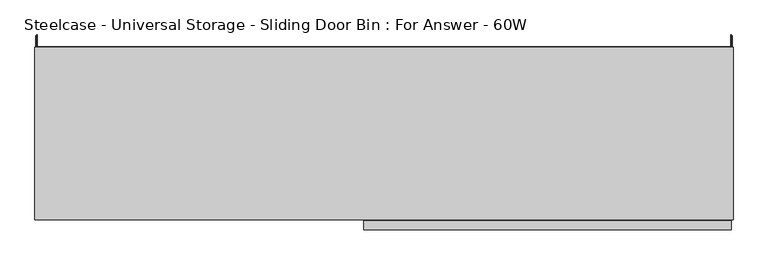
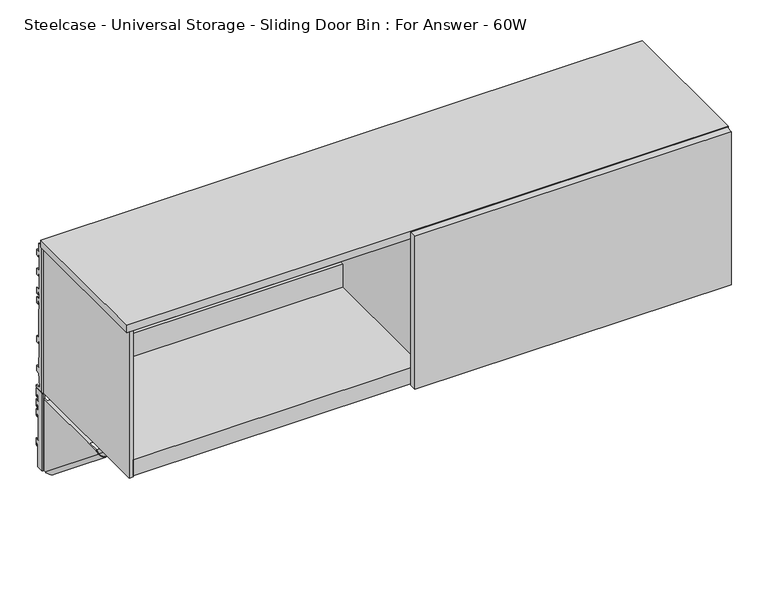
"""IFC4 building model written with IfcOpenShell, lengths in millimetres: furniture geometry, Steelcase - Universal Storage - Sliding Door Bin : For Answer - 60W."""

from ifc_helpers import new_model, si_unit, frame, origin, place, context, project, spatial, polyline, circle_curve, ellipse_curve, outline, extrude, faceted_brep, source, transform, mapped, element, save
from ifc_brep_helpers import plane_surface, cylinder_surface, revolved_surface, advanced_brep


def steelcase_universal_storage_sliding_door_bin_for_answer_60w_f952b99d(model_context):
    return source(origin(), model_context, "Body", "SolidModel", [
        advanced_brep(
        [(4.0894, 24.9864881, 1265.2629), (4.0894, 1.1327479, 1265.2629), (4.0894, 1.1203386, 1058.2783), (4.0894, 17.3410881, 1058.2783), (4.0894, 17.3410881, 1118.4254822), (4.0894, 21.4050888, 1118.4254822), (4.0894, 21.4050888, 1112.0755064), (4.0894, 24.9864881, 1112.0755064), (4.0894, 24.9864881, 1130.3381271), (4.0894, 14.7756879, 1130.3381271), (4.0894, 14.7756879, 1196.9115345), (4.0894, 18.8396885, 1196.9115345), (4.0894, 18.8396885, 1190.561486), (4.0894, 24.9864881, 1190.561486), (4.0894, 24.9864881, 1208.8241068), (4.0894, 14.7756879, 1208.8241068), (4.0894, 14.7756879, 1223.0735277), (4.0894, 18.8396885, 1223.0735277), (4.0894, 18.8396885, 1216.7234793), (4.0894, 24.9864881, 1216.7234793), (4.0894, 24.9864881, 1234.9861), (4.0894, 14.7756879, 1234.9861), (4.0894, 14.7756879, 1249.2355209), (4.0894, 18.8396885, 1249.2355209), (4.0894, 18.8396885, 1242.8854725), (4.0894, 24.9864881, 1242.8854725), (2.1844, 24.9864881, 1265.2629), (2.1844, 24.9864881, 1242.8854725), (2.1844, 18.8396885, 1242.8854725), (2.1844, 18.8396885, 1249.2355209), (2.1844, 14.7756879, 1249.2355209), (2.1844, 14.7756879, 1234.9861), (2.1844, 24.9864881, 1234.9861), (2.1844, 24.9864881, 1216.7234793), (2.1844, 18.8396885, 1216.7234793), (2.1844, 18.8396885, 1223.0735277), (2.1844, 14.7756879, 1223.0735277), (2.1844, 14.7756879, 1208.8241068), (2.1844, 24.9864881, 1208.8241068), (2.1844, 24.9864881, 1190.561486), (2.1844, 18.8396885, 1190.561486), (2.1844, 18.8396885, 1196.9115345), (2.1844, 14.7756879, 1196.9115345), (2.1844, 14.7756879, 1130.3381271), (2.1844, 24.9864881, 1130.3381271), (2.1844, 24.9864881, 1112.0755064), (2.1844, 21.4050888, 1112.0755064), (2.1844, 21.4050888, 1118.4254822), (2.1844, 17.3410881, 1118.4254822), (2.1844, 17.3410881, 1058.2783), (2.1844, -0.7757522, 1058.2783), (2.1844, -0.7757522, 1265.2629), (4.4891598, -3.080512, 1265.2629), (8.1026, -3.080512, 1265.2629), (8.1026, -1.7838863, 1265.2629), (7.4942256, -1.175512, 1265.2629), (6.3852506, -1.175512, 1265.2629), (6.3852506, -1.175512, 1058.2783), (7.4942256, -1.175512, 1058.2783), (8.1026, -1.7838863, 1058.2783), (8.1026, -3.080512, 1058.2783), (4.4891598, -3.080512, 1058.2783)],
        [
            (0, 1),
            (1, 2),
            (2, 3),
            (3, 4),
            (4, 5),
            (5, 6),
            (6, 7),
            (7, 8),
            (8, 9),
            (9, 10),
            (10, 11),
            (11, 12),
            (12, 13),
            (13, 14),
            (14, 15),
            (15, 16),
            (16, 17),
            (17, 18),
            (18, 19),
            (19, 20),
            (20, 21),
            (21, 22),
            (22, 23),
            (23, 24),
            (24, 25),
            (25, 0),
            (26, 27),
            (27, 28),
            (28, 29),
            (29, 30),
            (30, 31),
            (31, 32),
            (32, 33),
            (33, 34),
            (34, 35),
            (35, 36),
            (36, 37),
            (37, 38),
            (38, 39),
            (39, 40),
            (40, 41),
            (41, 42),
            (42, 43),
            (43, 44),
            (44, 45),
            (45, 46),
            (46, 47),
            (47, 48),
            (48, 49),
            (49, 50),
            (50, 51),
            (51, 26),
            (0, 26),
            (51, 52, circle_curve(frame((4.4891598, -0.7757522, 1265.2629), z_axis=(0.0, 0.0, 1.0), x_axis=(1.0, 0.0, 0.0)), 2.3047598)),
            (52, 53),
            (53, 54),
            (54, 55, circle_curve(frame((7.4942256, -1.7838863, 1265.2629), z_axis=(0.0, 0.0, 1.0), x_axis=(1.0, 0.0, 0.0)), 0.6083744)),
            (55, 56),
            (56, 1, circle_curve(frame((6.3852506, 1.1203386, 1265.2629), z_axis=(0.0, 0.0, -1.0), x_axis=(1.0, 0.0, 0.0)), 2.2958506)),
            (2, 57, circle_curve(frame((6.3852506, 1.1203386, 1058.2783), z_axis=(0.0, 0.0, 1.0), x_axis=(1.0, 0.0, 0.0)), 2.2958506)),
            (57, 58),
            (58, 59, circle_curve(frame((7.4942256, -1.7838863, 1058.2783), z_axis=(0.0, 0.0, -1.0), x_axis=(1.0, 0.0, 0.0)), 0.6083744)),
            (59, 60),
            (60, 61),
            (61, 50, circle_curve(frame((4.4891598, -0.7757522, 1058.2783), z_axis=(0.0, 0.0, -1.0), x_axis=(1.0, 0.0, 0.0)), 2.3047598)),
            (49, 3),
            (48, 4),
            (47, 5),
            (46, 6),
            (45, 7),
            (44, 8),
            (43, 9),
            (42, 10),
            (41, 11),
            (40, 12),
            (39, 13),
            (38, 14),
            (37, 15),
            (36, 16),
            (35, 17),
            (34, 18),
            (33, 19),
            (32, 20),
            (31, 21),
            (30, 22),
            (29, 23),
            (28, 24),
            (27, 25),
            (61, 52),
            (60, 53),
            (59, 54),
            (58, 55),
            (57, 56),
        ],
        [
            plane_surface(frame((4.0894, 1.241405, 1265.2629), z_axis=(1.0, 0.0, 0.0), x_axis=(0.0, -1.0, 0.0))),
            plane_surface(frame((2.1844, 1.241405, 1265.2629), z_axis=(-1.0, 0.0, 0.0), x_axis=(0.0, 1.0, 0.0))),
            plane_surface(frame((4.0894, 24.9864881, 1265.2629), z_axis=(0.0, 0.0, 1.0), x_axis=(-1.0, 0.0, 0.0))),
            plane_surface(frame((4.0894, 1.1327479, 1058.2783), z_axis=(0.0, 0.0, -1.0), x_axis=(-1.0, 0.0, 0.0))),
            plane_surface(frame((4.0894, 17.3410881, 1058.2783), z_axis=(0.0, 1.0, 0.0), x_axis=(-1.0, 0.0, 0.0))),
            plane_surface(frame((4.0894, 17.3410881, 1118.4254822), z_axis=(0.0, 0.0, -1.0), x_axis=(-1.0, 0.0, 0.0))),
            plane_surface(frame((4.0894, 21.4050888, 1118.4254822), z_axis=(0.0, -1.0, 0.0), x_axis=(-1.0, 0.0, 0.0))),
            plane_surface(frame((4.0894, 21.4050888, 1112.0755064), z_axis=(0.0, 0.0, -1.0), x_axis=(-1.0, 0.0, 0.0))),
            plane_surface(frame((4.0894, 24.9864881, 1112.0755064), z_axis=(0.0, 1.0, 0.0), x_axis=(-1.0, 0.0, 0.0))),
            plane_surface(frame((4.0894, 24.9864881, 1130.3381271), z_axis=(0.0, 0.0, 1.0), x_axis=(-1.0, 0.0, 0.0))),
            plane_surface(frame((4.0894, 14.7756879, 1130.3381271), z_axis=(0.0, 1.0, 0.0), x_axis=(-1.0, 0.0, 0.0))),
            plane_surface(frame((4.0894, 14.7756879, 1196.9115345), z_axis=(0.0, 0.0, -1.0), x_axis=(-1.0, 0.0, 0.0))),
            plane_surface(frame((4.0894, 18.8396885, 1196.9115345), z_axis=(0.0, -1.0, 0.0), x_axis=(-1.0, 0.0, 0.0))),
            plane_surface(frame((4.0894, 18.8396885, 1190.561486), z_axis=(0.0, 0.0, -1.0), x_axis=(-1.0, 0.0, 0.0))),
            plane_surface(frame((4.0894, 24.9864881, 1190.561486), z_axis=(0.0, 1.0, 0.0), x_axis=(-1.0, 0.0, 0.0))),
            plane_surface(frame((4.0894, 24.9864881, 1208.8241068), z_axis=(0.0, 0.0, 1.0), x_axis=(-1.0, 0.0, 0.0))),
            plane_surface(frame((4.0894, 14.7756879, 1208.8241068), z_axis=(0.0, 1.0, 0.0), x_axis=(-1.0, 0.0, 0.0))),
            plane_surface(frame((4.0894, 14.7756879, 1223.0735277), z_axis=(0.0, 0.0, -1.0), x_axis=(-1.0, 0.0, 0.0))),
            plane_surface(frame((4.0894, 18.8396885, 1223.0735277), z_axis=(0.0, -1.0, 0.0), x_axis=(-1.0, 0.0, 0.0))),
            plane_surface(frame((4.0894, 18.8396885, 1216.7234793), z_axis=(0.0, 0.0, -1.0), x_axis=(-1.0, 0.0, 0.0))),
            plane_surface(frame((4.0894, 24.9864881, 1216.7234793), z_axis=(0.0, 1.0, 0.0), x_axis=(-1.0, 0.0, 0.0))),
            plane_surface(frame((4.0894, 24.9864881, 1234.9861), z_axis=(0.0, 0.0, 1.0), x_axis=(-1.0, 0.0, 0.0))),
            plane_surface(frame((4.0894, 14.7756879, 1234.9861), z_axis=(0.0, 1.0, 0.0), x_axis=(-1.0, 0.0, 0.0))),
            plane_surface(frame((4.0894, 14.7756879, 1249.2355209), z_axis=(0.0, 0.0, -1.0), x_axis=(-1.0, 0.0, 0.0))),
            plane_surface(frame((4.0894, 18.8396885, 1249.2355209), z_axis=(0.0, -1.0, 0.0), x_axis=(-1.0, 0.0, 0.0))),
            plane_surface(frame((4.0894, 18.8396885, 1242.8854725), z_axis=(0.0, 0.0, -1.0), x_axis=(-1.0, 0.0, 0.0))),
            plane_surface(frame((4.0894, 24.9864881, 1242.8854725), z_axis=(0.0, 1.0, 0.0), x_axis=(-1.0, 0.0, 0.0))),
            cylinder_surface(frame((4.4891598, -0.7757522, 1058.2783), z_axis=(0.0, 0.0, 1.0), x_axis=(1.0, 0.0, 0.0)), 2.3047598),
            plane_surface(frame((4.4891598, -3.080512, 1265.2629), z_axis=(0.0, -1.0, 0.0), x_axis=(0.0, 0.0, -1.0))),
            plane_surface(frame((8.1026, -3.080512, 1265.2629), z_axis=(1.0, 0.0, 0.0), x_axis=(0.0, 0.0, -1.0))),
            cylinder_surface(frame((7.4942256, -1.7838863, 1058.2783), z_axis=(0.0, 0.0, 1.0), x_axis=(1.0, 0.0, 0.0)), 0.6083744),
            plane_surface(frame((7.4942256, -1.175512, 1265.2629), z_axis=(0.0, 1.0, 0.0), x_axis=(0.0, 0.0, -1.0))),
            revolved_surface(polyline([(8.6811012, 1.1203386, 1058.2783), (8.6811012, 1.1203386, 1265.2629)]), (6.3852506, 1.1203386, 1058.2783), (0.0, 0.0, -1.0)),
        ],
        [
            (0, [[1, 2, 3, 4, 5, 6, 7, 8, 9, 10, 11, 12, 13, 14, 15, 16, 17, 18, 19, 20, 21, 22, 23, 24, 25, 26]]),
            (1, [[27, 28, 29, 30, 31, 32, 33, 34, 35, 36, 37, 38, 39, 40, 41, 42, 43, 44, 45, 46, 47, 48, 49, 50, 51, 52]]),
            (2, [[-1, 53, -52, 54, 55, 56, 57, 58, 59]]),
            (3, [[-3, 60, 61, 62, 63, 64, 65, -50, 66]]),
            (4, [[-4, -66, -49, 67]]),
            (5, [[-5, -67, -48, 68]]),
            (6, [[-6, -68, -47, 69]]),
            (7, [[-7, -69, -46, 70]]),
            (8, [[-8, -70, -45, 71]]),
            (9, [[-9, -71, -44, 72]]),
            (10, [[-10, -72, -43, 73]]),
            (11, [[-11, -73, -42, 74]]),
            (12, [[-12, -74, -41, 75]]),
            (13, [[-13, -75, -40, 76]]),
            (14, [[-14, -76, -39, 77]]),
            (15, [[-15, -77, -38, 78]]),
            (16, [[-16, -78, -37, 79]]),
            (17, [[-17, -79, -36, 80]]),
            (18, [[-18, -80, -35, 81]]),
            (19, [[-19, -81, -34, 82]]),
            (20, [[-20, -82, -33, 83]]),
            (21, [[-21, -83, -32, 84]]),
            (22, [[-22, -84, -31, 85]]),
            (23, [[-23, -85, -30, 86]]),
            (24, [[-24, -86, -29, 87]]),
            (25, [[-25, -87, -28, 88]]),
            (26, [[-26, -88, -27, -53]]),
            (27, [[-54, -51, -65, 89]]),
            (28, [[-55, -89, -64, 90]]),
            (29, [[-56, -90, -63, 91]]),
            (30, [[-57, -91, -62, 92]]),
            (31, [[-58, -92, -61, 93]]),
            (32, [[-59, -93, -60, -2]]),
        ],
    ),
        advanced_brep(
        [(1519.9106, 24.9864881, 1265.2629), (1519.9106, 24.9864881, 1242.8854725), (1519.9106, 18.8396885, 1242.8854725), (1519.9106, 18.8396885, 1249.2355209), (1519.9106, 14.7756879, 1249.2355209), (1519.9106, 14.7756879, 1234.9861), (1519.9106, 24.9864881, 1234.9861), (1519.9106, 24.9864881, 1216.7234793), (1519.9106, 18.8396885, 1216.7234793), (1519.9106, 18.8396885, 1223.0735277), (1519.9106, 14.7756879, 1223.0735277), (1519.9106, 14.7756879, 1208.8241068), (1519.9106, 24.9864881, 1208.8241068), (1519.9106, 24.9864881, 1190.561486), (1519.9106, 18.8396885, 1190.561486), (1519.9106, 18.8396885, 1196.9115345), (1519.9106, 14.7756879, 1196.9115345), (1519.9106, 14.7756879, 1130.3381271), (1519.9106, 24.9864881, 1130.3381271), (1519.9106, 24.9864881, 1112.0755064), (1519.9106, 21.4050888, 1112.0755064), (1519.9106, 21.4050888, 1118.4254822), (1519.9106, 17.3410881, 1118.4254822), (1519.9106, 17.3410881, 1058.2783), (1519.9106, 1.1327479, 1058.2783), (1519.9106, 1.1203386, 1265.2629), (1521.8156, -0.7757522, 1265.2629), (1521.8156, -0.7757522, 1058.2783), (1521.8156, 17.3410881, 1058.2783), (1521.8156, 17.3410881, 1118.4254822), (1521.8156, 21.4050888, 1118.4254822), (1521.8156, 21.4050888, 1112.0755064), (1521.8156, 24.9864881, 1112.0755064), (1521.8156, 24.9864881, 1130.3381271), (1521.8156, 14.7756879, 1130.3381271), (1521.8156, 14.7756879, 1196.9115345), (1521.8156, 18.8396885, 1196.9115345), (1521.8156, 18.8396885, 1190.561486), (1521.8156, 24.9864881, 1190.561486), (1521.8156, 24.9864881, 1208.8241068), (1521.8156, 14.7756879, 1208.8241068), (1521.8156, 14.7756879, 1223.0735277), (1521.8156, 18.8396885, 1223.0735277), (1521.8156, 18.8396885, 1216.7234793), (1521.8156, 24.9864881, 1216.7234793), (1521.8156, 24.9864881, 1234.9861), (1521.8156, 14.7756879, 1234.9861), (1521.8156, 14.7756879, 1249.2355209), (1521.8156, 18.8396885, 1249.2355209), (1521.8156, 18.8396885, 1242.8854725), (1521.8156, 24.9864881, 1242.8854725), (1521.8156, 24.9864881, 1265.2629), (1519.5108402, -3.080512, 1058.2783), (1516.1006, -3.080512, 1058.2783), (1516.1006, -1.7838863, 1058.2783), (1516.7089744, -1.175512, 1058.2783), (1517.6147494, -1.175512, 1058.2783), (1517.6147494, -1.175512, 1265.2629), (1516.7089744, -1.175512, 1265.2629), (1516.1006, -1.7838863, 1265.2629), (1516.1006, -3.080512, 1265.2629), (1519.5108402, -3.080512, 1265.2629)],
        [
            (0, 1),
            (1, 2),
            (2, 3),
            (3, 4),
            (4, 5),
            (5, 6),
            (6, 7),
            (7, 8),
            (8, 9),
            (9, 10),
            (10, 11),
            (11, 12),
            (12, 13),
            (13, 14),
            (14, 15),
            (15, 16),
            (16, 17),
            (17, 18),
            (18, 19),
            (19, 20),
            (20, 21),
            (21, 22),
            (22, 23),
            (23, 24),
            (24, 25),
            (25, 0),
            (26, 27),
            (27, 28),
            (28, 29),
            (29, 30),
            (30, 31),
            (31, 32),
            (32, 33),
            (33, 34),
            (34, 35),
            (35, 36),
            (36, 37),
            (37, 38),
            (38, 39),
            (39, 40),
            (40, 41),
            (41, 42),
            (42, 43),
            (43, 44),
            (44, 45),
            (45, 46),
            (46, 47),
            (47, 48),
            (48, 49),
            (49, 50),
            (50, 51),
            (51, 26),
            (0, 51),
            (50, 1),
            (49, 2),
            (48, 3),
            (47, 4),
            (46, 5),
            (45, 6),
            (44, 7),
            (43, 8),
            (42, 9),
            (41, 10),
            (40, 11),
            (39, 12),
            (38, 13),
            (37, 14),
            (36, 15),
            (35, 16),
            (34, 17),
            (33, 18),
            (32, 19),
            (31, 20),
            (30, 21),
            (29, 22),
            (28, 23),
            (27, 52, circle_curve(frame((1519.5108402, -0.7757522, 1058.2783), z_axis=(0.0, 0.0, -1.0), x_axis=(0.0, 1.0, 0.0)), 2.3047598)),
            (52, 53),
            (53, 54),
            (54, 55, circle_curve(frame((1516.7089744, -1.7838863, 1058.2783), z_axis=(0.0, 0.0, -1.0), x_axis=(0.0, 1.0, 0.0)), 0.6083744)),
            (55, 56),
            (56, 24, circle_curve(frame((1517.6147494, 1.1203386, 1058.2783), z_axis=(0.0, 0.0, 1.0), x_axis=(0.0, 1.0, 0.0)), 2.2958506)),
            (25, 57, circle_curve(frame((1517.6147494, 1.1203386, 1265.2629), z_axis=(0.0, 0.0, -1.0), x_axis=(0.0, 1.0, 0.0)), 2.2958506)),
            (57, 58),
            (58, 59, circle_curve(frame((1516.7089744, -1.7838863, 1265.2629), z_axis=(0.0, 0.0, 1.0), x_axis=(0.0, 1.0, 0.0)), 0.6083744)),
            (59, 60),
            (60, 61),
            (61, 26, circle_curve(frame((1519.5108402, -0.7757522, 1265.2629), z_axis=(0.0, 0.0, 1.0), x_axis=(0.0, 1.0, 0.0)), 2.3047598)),
            (56, 57),
            (55, 58),
            (54, 59),
            (53, 60),
            (52, 61),
        ],
        [
            plane_surface(frame((1519.9106, 24.9864881, 1265.2629), z_axis=(-1.0, 0.0, 0.0), x_axis=(0.0, 0.0, -1.0))),
            plane_surface(frame((1521.8156, 24.9864881, 1265.2629), z_axis=(1.0, 0.0, 0.0), x_axis=(0.0, 0.0, 1.0))),
            plane_surface(frame((1519.9106, 24.9864881, 1265.2629), z_axis=(0.0, 1.0, 0.0), x_axis=(1.0, 0.0, 0.0))),
            plane_surface(frame((1519.9106, 24.9864881, 1242.8854725), z_axis=(0.0, 0.0, -1.0), x_axis=(1.0, 0.0, 0.0))),
            plane_surface(frame((1519.9106, 18.8396885, 1242.8854725), z_axis=(0.0, -1.0, 0.0), x_axis=(1.0, 0.0, 0.0))),
            plane_surface(frame((1519.9106, 18.8396885, 1249.2355209), z_axis=(0.0, 0.0, -1.0), x_axis=(1.0, 0.0, 0.0))),
            plane_surface(frame((1519.9106, 14.7756879, 1249.2355209), z_axis=(0.0, 1.0, 0.0), x_axis=(1.0, 0.0, 0.0))),
            plane_surface(frame((1519.9106, 14.7756879, 1234.9861), z_axis=(0.0, 0.0, 1.0), x_axis=(1.0, 0.0, 0.0))),
            plane_surface(frame((1519.9106, 24.9864881, 1234.9861), z_axis=(0.0, 1.0, 0.0), x_axis=(1.0, 0.0, 0.0))),
            plane_surface(frame((1519.9106, 24.9864881, 1216.7234793), z_axis=(0.0, 0.0, -1.0), x_axis=(1.0, 0.0, 0.0))),
            plane_surface(frame((1519.9106, 18.8396885, 1216.7234793), z_axis=(0.0, -1.0, 0.0), x_axis=(1.0, 0.0, 0.0))),
            plane_surface(frame((1519.9106, 18.8396885, 1223.0735277), z_axis=(0.0, 0.0, -1.0), x_axis=(1.0, 0.0, 0.0))),
            plane_surface(frame((1519.9106, 14.7756879, 1223.0735277), z_axis=(0.0, 1.0, 0.0), x_axis=(1.0, 0.0, 0.0))),
            plane_surface(frame((1519.9106, 14.7756879, 1208.8241068), z_axis=(0.0, 0.0, 1.0), x_axis=(1.0, 0.0, 0.0))),
            plane_surface(frame((1519.9106, 24.9864881, 1208.8241068), z_axis=(0.0, 1.0, 0.0), x_axis=(1.0, 0.0, 0.0))),
            plane_surface(frame((1519.9106, 24.9864881, 1190.561486), z_axis=(0.0, 0.0, -1.0), x_axis=(1.0, 0.0, 0.0))),
            plane_surface(frame((1519.9106, 18.8396885, 1190.561486), z_axis=(0.0, -1.0, 0.0), x_axis=(1.0, 0.0, 0.0))),
            plane_surface(frame((1519.9106, 18.8396885, 1196.9115345), z_axis=(0.0, 0.0, -1.0), x_axis=(1.0, 0.0, 0.0))),
            plane_surface(frame((1519.9106, 14.7756879, 1196.9115345), z_axis=(0.0, 1.0, 0.0), x_axis=(1.0, 0.0, 0.0))),
            plane_surface(frame((1519.9106, 14.7756879, 1130.3381271), z_axis=(0.0, 0.0, 1.0), x_axis=(1.0, 0.0, 0.0))),
            plane_surface(frame((1519.9106, 24.9864881, 1130.3381271), z_axis=(0.0, 1.0, 0.0), x_axis=(1.0, 0.0, 0.0))),
            plane_surface(frame((1519.9106, 24.9864881, 1112.0755064), z_axis=(0.0, 0.0, -1.0), x_axis=(1.0, 0.0, 0.0))),
            plane_surface(frame((1519.9106, 21.4050888, 1112.0755064), z_axis=(0.0, -1.0, 0.0), x_axis=(1.0, 0.0, 0.0))),
            plane_surface(frame((1519.9106, 21.4050888, 1118.4254822), z_axis=(0.0, 0.0, -1.0), x_axis=(1.0, 0.0, 0.0))),
            plane_surface(frame((1519.9106, 17.3410881, 1118.4254822), z_axis=(0.0, 1.0, 0.0), x_axis=(1.0, 0.0, 0.0))),
            plane_surface(frame((1519.9106, 17.3410881, 1058.2783), z_axis=(0.0, 0.0, -1.0), x_axis=(1.0, 0.0, 0.0))),
            plane_surface(frame((1519.9106, 1.1327479, 1265.2629), z_axis=(0.0, 0.0, 1.0), x_axis=(1.0, 0.0, 0.0))),
            revolved_surface(polyline([(1517.6147494, 3.4161892, 1058.2783), (1517.6147494, 3.4161892, 1265.2629)]), (1517.6147494, 1.1203386, 1058.2783), (0.0, 0.0, -1.0)),
            plane_surface(frame((1517.6147494, -1.175512, 1265.2629), z_axis=(0.0, 1.0, 0.0), x_axis=(0.0, 0.0, -1.0))),
            cylinder_surface(frame((1516.7089744, -1.7838863, 1058.2783), z_axis=(0.0, 0.0, 1.0), x_axis=(0.0, 1.0, 0.0)), 0.6083744),
            plane_surface(frame((1516.1006, -1.7838863, 1265.2629), z_axis=(-1.0, 0.0, 0.0), x_axis=(0.0, 0.0, -1.0))),
            plane_surface(frame((1516.1006, -3.080512, 1265.2629), z_axis=(0.0, -1.0, 0.0), x_axis=(0.0, 0.0, -1.0))),
            cylinder_surface(frame((1519.5108402, -0.7757522, 1058.2783), z_axis=(0.0, 0.0, 1.0), x_axis=(0.0, 1.0, 0.0)), 2.3047598),
        ],
        [
            (0, [[1, 2, 3, 4, 5, 6, 7, 8, 9, 10, 11, 12, 13, 14, 15, 16, 17, 18, 19, 20, 21, 22, 23, 24, 25, 26]]),
            (1, [[27, 28, 29, 30, 31, 32, 33, 34, 35, 36, 37, 38, 39, 40, 41, 42, 43, 44, 45, 46, 47, 48, 49, 50, 51, 52]]),
            (2, [[-1, 53, -51, 54]]),
            (3, [[-2, -54, -50, 55]]),
            (4, [[-3, -55, -49, 56]]),
            (5, [[-4, -56, -48, 57]]),
            (6, [[-5, -57, -47, 58]]),
            (7, [[-6, -58, -46, 59]]),
            (8, [[-7, -59, -45, 60]]),
            (9, [[-8, -60, -44, 61]]),
            (10, [[-9, -61, -43, 62]]),
            (11, [[-10, -62, -42, 63]]),
            (12, [[-11, -63, -41, 64]]),
            (13, [[-12, -64, -40, 65]]),
            (14, [[-13, -65, -39, 66]]),
            (15, [[-14, -66, -38, 67]]),
            (16, [[-15, -67, -37, 68]]),
            (17, [[-16, -68, -36, 69]]),
            (18, [[-17, -69, -35, 70]]),
            (19, [[-18, -70, -34, 71]]),
            (20, [[-19, -71, -33, 72]]),
            (21, [[-20, -72, -32, 73]]),
            (22, [[-21, -73, -31, 74]]),
            (23, [[-22, -74, -30, 75]]),
            (24, [[-23, -75, -29, 76]]),
            (25, [[-24, -76, -28, 77, 78, 79, 80, 81, 82]]),
            (26, [[-26, 83, 84, 85, 86, 87, 88, -52, -53]]),
            (27, [[-83, -25, -82, 89]]),
            (28, [[-84, -89, -81, 90]]),
            (29, [[-85, -90, -80, 91]]),
            (30, [[-86, -91, -79, 92]]),
            (31, [[-87, -92, -78, 93]]),
            (32, [[-88, -93, -77, -27]]),
        ],
    ),
        advanced_brep(
        [(1494.9424, -230.0833372, 1251.1405), (1494.9424, 1.1327479, 1063.9053738), (1492.8342, 1.1327479, 1063.9053738), (1492.8342, -230.0833372, 1251.1405), (1492.8342, 1.1327479, 1058.2783), (1492.8342, -7.7654502, 1058.2783), (1492.8342, -240.6555763, 1246.8690381), (1516.1006, -7.7654502, 1058.2783), (1516.1006, -240.6555763, 1246.8690381), (1516.1006, 1.1327479, 1058.2783), (1516.1006, 1.1327479, 1063.9053738), (1516.1006, -3.080512, 1067.317205), (1516.1006, -3.080512, 1251.1405), (1516.1006, -230.0833372, 1251.1405), (1513.9924009, 1.1327479, 1063.9053738), (1513.9924009, -3.080512, 1067.317205), (1513.9924009, -7.7654502, 1058.2783), (1513.9924009, -240.6555763, 1246.8690381), (1513.9924009, -230.0833372, 1251.1405), (1513.9924009, -200.311512, 1251.1405), (1513.9924009, -200.311512, 1250.3023163), (1513.9924009, -14.0787123, 1250.3023163), (1513.9924009, -14.0787123, 1251.1405), (1513.9924009, -3.080512, 1251.1405), (1513.9924009, 1.1327479, 1058.2783), (1494.9424, -7.7654502, 1058.2783), (1494.9424, -240.6555763, 1246.8690381), (1494.9424, 1.1327479, 1058.2783), (1485.0617978, -200.311512, 1251.1405), (1485.0617978, -200.311512, 1269.5555016), (1484.2236, -200.311512, 1269.5555016), (1484.2236, -200.311512, 1250.3023163), (1484.2236, -82.5825138, 1269.5555016), (1485.0617978, -82.5825138, 1269.5555016), (1485.0617978, -82.5825138, 1251.1405), (1484.2236, -82.5825138, 1251.1405), (1484.2236, -14.0787123, 1251.1405), (1484.2236, -14.0787123, 1250.3023163)],
        [
            (0, 1),
            (1, 2),
            (2, 3),
            (3, 0),
            (2, 4),
            (4, 5),
            (5, 6),
            (6, 3),
            (5, 7, ellipse_curve(frame((1504.4674, -7.7654502, 1058.2783), z_axis=(0.0, 0.0, 1.0), x_axis=(0.0, -1.0, 0.0)), 18.4853359, 11.6332)),
            (7, 8),
            (8, 6, ellipse_curve(frame((1504.4674, -240.6555763, 1246.8690381), z_axis=(0.0, 0.374606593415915, -0.9271838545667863), x_axis=(0.0, -0.9271838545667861, -0.3746065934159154)), 13.3008659, 11.6332)),
            (7, 9),
            (9, 10),
            (10, 11),
            (11, 12),
            (12, 13),
            (13, 8),
            (10, 14),
            (14, 15),
            (15, 11),
            (16, 17),
            (17, 18),
            (18, 19),
            (19, 20),
            (20, 21),
            (21, 22),
            (22, 23),
            (23, 15),
            (14, 24),
            (24, 16),
            (16, 25, ellipse_curve(frame((1504.4674005, -7.7654502, 1058.2783), z_axis=(0.0, 0.0, -1.0), x_axis=(0.0, 1.0, 0.0)), 15.135374, 9.5250005)),
            (25, 26),
            (26, 17, ellipse_curve(frame((1504.4674005, -240.6555763, 1246.8690381), z_axis=(0.0, -0.374606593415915, 0.9271838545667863), x_axis=(0.0, 0.9271838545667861, 0.3746065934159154)), 10.8904475, 9.5250005)),
            (0, 26),
            (25, 27),
            (27, 1),
            (13, 18),
            (24, 9),
            (4, 27),
            (28, 29),
            (29, 30),
            (30, 31),
            (31, 20),
            (19, 28),
            (32, 33),
            (33, 34),
            (34, 35),
            (35, 32),
            (35, 36),
            (36, 37),
            (37, 31),
            (30, 32),
            (28, 34),
            (33, 29),
            (36, 22),
            (21, 37),
            (12, 23),
        ],
        [
            plane_surface(frame((1494.9424, -241.2702093, 1260.199452), z_axis=(0.0, 0.6293204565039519, 0.7771459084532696), x_axis=(0.0, 0.7771459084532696, -0.6293204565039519))),
            plane_surface(frame((1492.8342, -241.2702093, 1260.199452), z_axis=(-1.0, 0.0, 0.0), x_axis=(0.0, 0.7771459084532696, -0.6293204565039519))),
            cylinder_surface(frame((1504.4674, 5.728998, 1047.3507094), z_axis=(0.0, -0.7771459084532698, 0.6293204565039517), x_axis=(0.0, 0.6293204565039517, 0.7771459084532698)), 11.6332),
            plane_surface(frame((1516.1006, -247.5463438, 1252.4490726), z_axis=(1.0, 0.0, 0.0), x_axis=(0.0, 0.7771459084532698, -0.6293204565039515))),
            plane_surface(frame((1516.1006, -241.2702093, 1260.199452), z_axis=(0.0, 0.6293204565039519, 0.7771459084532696), x_axis=(0.0, 0.7771459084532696, -0.6293204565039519))),
            plane_surface(frame((1513.9924009, -241.2702093, 1260.199452), z_axis=(-1.0, 0.0, 0.0), x_axis=(0.0, 0.7771459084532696, -0.6293204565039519))),
            revolved_surface(polyline([(1504.4674005, 7.3699238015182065, 1058.2783000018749), (1504.4674005, -238.76446812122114, 1257.5940349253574)]), (1504.4674005, 5.728998, 1047.3507094), (0.0, 0.7771459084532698, -0.6293204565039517)),
            plane_surface(frame((1494.9424, -247.5463438, 1252.4490726), z_axis=(1.0, 0.0, 0.0), x_axis=(0.0, 0.7771459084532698, -0.6293204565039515))),
            plane_surface(frame((1524.0, -257.2236519, 1240.1751011), z_axis=(0.0, -0.374606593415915, 0.9271838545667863), x_axis=(-1.0, 0.0, 0.0))),
            plane_surface(frame((1524.0, 1.1327479, 1058.2783), z_axis=(0.0, 0.0, -1.0), x_axis=(-1.0, 0.0, 0.0))),
            plane_surface(frame((1524.0, 1.1327479, 1070.9783), z_axis=(0.0, 1.0, 0.0), x_axis=(-1.0, 0.0, 0.0))),
            plane_surface(frame((1484.2236, -200.311512, 1269.5555016), z_axis=(0.0, -1.0, 0.0), x_axis=(0.0, 0.0, -1.0))),
            plane_surface(frame((1484.2236, -82.5825138, 1269.5555016), z_axis=(0.0, 1.0, 0.0), x_axis=(0.0, 0.0, 1.0))),
            plane_surface(frame((1484.2236, -200.311512, 1269.5555016), z_axis=(-1.0, 0.0, 0.0), x_axis=(0.0, 1.0, 0.0))),
            plane_surface(frame((1485.0617978, -200.311512, 1251.1405), z_axis=(1.0, 0.0, 0.0), x_axis=(0.0, 1.0, 0.0))),
            plane_surface(frame((1485.0617978, -200.311512, 1269.5555016), z_axis=(0.0, 0.0, 1.0), x_axis=(0.0, 1.0, 0.0))),
            plane_surface(frame((1484.2236, -14.0787123, 1251.1405), z_axis=(0.0, 1.0, 0.0), x_axis=(0.0, 0.0, 1.0))),
            plane_surface(frame((1484.2236, -200.311512, 1250.3023163), z_axis=(0.0, 0.0, -1.0), x_axis=(0.0, 1.0, 0.0))),
            plane_surface(frame((1516.1006, -200.311512, 1251.1405), z_axis=(0.0, 0.0, 1.0), x_axis=(0.0, 1.0, 0.0))),
            plane_surface(frame((1516.1006, -3.080512, 1067.317205), z_axis=(0.0, 1.0, 0.0), x_axis=(-1.0, 0.0, 0.0))),
        ],
        [
            (0, [[1, 2, 3, 4]]),
            (1, [[-3, 5, 6, 7, 8]]),
            (2, [[-7, 9, 10, 11]]),
            (3, [[-10, 12, 13, 14, 15, 16, 17]]),
            (4, [[18, 19, 20, -14]]),
            (5, [[21, 22, 23, 24, 25, 26, 27, 28, -19, 29, 30]]),
            (6, [[-21, 31, 32, 33]]),
            (7, [[-1, 34, -32, 35, 36]]),
            (8, [[-4, -8, -11, -17, 37, -22, -33, -34]]),
            (9, [[38, -12, -9, -6, 39, -35, -31, -30]]),
            (10, [[-38, -29, -18, -13]]),
            (10, [[-39, -5, -2, -36]]),
            (11, [[40, 41, 42, 43, -24, 44]]),
            (12, [[45, 46, 47, 48]]),
            (13, [[-48, 49, 50, 51, -42, 52]]),
            (14, [[-40, 53, -46, 54]]),
            (15, [[-41, -54, -45, -52]]),
            (16, [[-50, 55, -26, 56]]),
            (17, [[-51, -56, -25, -43]]),
            (18, [[57, -27, -55, -49, -47, -53, -44, -23, -37, -16]]),
            (19, [[-15, -20, -28, -57]]),
        ],
    ),
        advanced_brep(
        [(8.1026, -3.080512, 1067.317205), (8.1026, -3.080512, 1251.1405), (8.1026, -14.0787123, 1251.1405), (8.1026, -14.0787123, 1250.3023163), (8.1026, -200.311512, 1250.3023163), (8.1026, -200.311512, 1251.1405), (8.1026, -230.0833372, 1251.1405), (8.1026, -240.6555763, 1246.8690381), (8.1026, -7.7654502, 1058.2783), (8.1026, 1.1327479, 1058.2783), (8.1026, 1.1327479, 1063.9053738), (5.9944, -3.080512, 1251.1405), (5.9944, -3.080512, 1067.317205), (5.9944, 1.1327479, 1063.9053738), (5.9944, 1.1327479, 1058.2783), (5.9944, -7.7654502, 1058.2783), (5.9944, -240.6555763, 1246.8690381), (5.9944, -230.0833372, 1251.1405), (39.5732022, -200.311512, 1251.1405), (39.5732022, -82.5825138, 1251.1405), (40.4114, -82.5825138, 1251.1405), (40.4114, -14.0787123, 1251.1405), (29.2608, -7.7654502, 1058.2783), (29.2608, -240.6555763, 1246.8690381), (29.2608, 1.1327479, 1058.2783), (29.2608, 1.1327479, 1063.9053738), (29.2608, -230.0833372, 1251.1405), (27.1526009, 1.1327479, 1063.9053738), (27.1526009, -230.0833372, 1251.1405), (27.1526009, 1.1327479, 1058.2783), (27.1526009, -7.7654502, 1058.2783), (27.1526009, -240.6555763, 1246.8690381), (40.4114, -200.311512, 1250.3023163), (40.4114, -200.311512, 1269.5555016), (39.5732022, -200.311512, 1269.5555016), (40.4114, -14.0787123, 1250.3023163), (40.4114, -82.5825138, 1269.5555016), (39.5732022, -82.5825138, 1269.5555016)],
        [
            (0, 1),
            (1, 2),
            (2, 3),
            (3, 4),
            (4, 5),
            (5, 6),
            (6, 7),
            (7, 8),
            (8, 9),
            (9, 10),
            (10, 0),
            (11, 12),
            (12, 13),
            (13, 14),
            (14, 15),
            (15, 16),
            (16, 17),
            (17, 11),
            (17, 6),
            (5, 18),
            (18, 19),
            (19, 20),
            (20, 21),
            (21, 2),
            (1, 11),
            (0, 12),
            (10, 13),
            (15, 22, ellipse_curve(frame((17.6276, -7.7654502, 1058.2783), z_axis=(0.0, 0.0, 1.0), x_axis=(0.0, -1.0, 0.0)), 18.4853359, 11.6332)),
            (22, 23),
            (23, 16, ellipse_curve(frame((17.6276, -240.6555763, 1246.8690381), z_axis=(0.0, 0.374606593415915, -0.9271838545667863), x_axis=(0.0, -0.9271838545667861, -0.3746065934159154)), 13.3008659, 11.6332)),
            (22, 24),
            (24, 25),
            (25, 26),
            (26, 23),
            (25, 27),
            (27, 28),
            (28, 26),
            (27, 29),
            (29, 30),
            (30, 31),
            (31, 28),
            (7, 31, ellipse_curve(frame((17.6276005, -240.6555763, 1246.8690381), z_axis=(0.0, -0.374606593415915, 0.9271838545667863), x_axis=(0.0, 0.9271838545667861, 0.3746065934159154)), 10.8904475, 9.5250005)),
            (30, 8, ellipse_curve(frame((17.6276005, -7.7654502, 1058.2783), z_axis=(0.0, 0.0, -1.0), x_axis=(0.0, 1.0, 0.0)), 15.135374, 9.5250005)),
            (14, 9),
            (29, 24),
            (4, 32),
            (32, 33),
            (33, 34),
            (34, 18),
            (21, 35),
            (35, 3),
            (35, 32),
            (20, 36),
            (36, 33),
            (19, 37),
            (37, 36),
            (37, 34),
        ],
        [
            plane_surface(frame((8.1026, -230.0833372, 1251.1405), z_axis=(1.0, 0.0, 0.0), x_axis=(0.0, -1.0, 0.0))),
            plane_surface(frame((5.9944, -230.0833372, 1251.1405), z_axis=(-1.0, 0.0, 0.0), x_axis=(0.0, 1.0, 0.0))),
            plane_surface(frame((8.1026, -3.080512, 1251.1405), z_axis=(0.0, 0.0, 1.0), x_axis=(-1.0, 0.0, 0.0))),
            plane_surface(frame((8.1026, -3.080512, 1067.317205), z_axis=(0.0, 1.0, 0.0), x_axis=(-1.0, 0.0, 0.0))),
            plane_surface(frame((8.1026, -241.2702093, 1260.199452), z_axis=(0.0, 0.6293204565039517, 0.7771459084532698), x_axis=(0.0, 0.7771459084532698, -0.6293204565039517))),
            cylinder_surface(frame((17.6276, 5.728998, 1047.3507094), z_axis=(0.0, -0.7771459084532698, 0.6293204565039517), x_axis=(1.0, 0.0, 0.0)), 11.6332),
            plane_surface(frame((29.2608, -247.5463438, 1252.4490726), z_axis=(1.0000000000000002, 0.0, 0.0), x_axis=(0.0, 0.7771459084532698, -0.6293204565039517))),
            plane_surface(frame((29.2608, -241.2702093, 1260.199452), z_axis=(0.0, 0.6293204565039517, 0.7771459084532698), x_axis=(0.0, 0.7771459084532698, -0.6293204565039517))),
            plane_surface(frame((27.1526009, -241.2702093, 1260.199452), z_axis=(-1.0000000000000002, 0.0, 0.0), x_axis=(0.0, 0.7771459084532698, -0.6293204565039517))),
            revolved_surface(polyline([(27.152601, 1.375646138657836, 1050.8759848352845), (27.152601, -244.75874578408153, 1250.1917197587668)]), (17.6276005, 5.728998, 1047.3507094), (0.0, 0.7771459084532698, -0.6293204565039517)),
            plane_surface(frame((1524.0, -257.2236519, 1240.1751011), z_axis=(0.0, -0.374606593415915, 0.9271838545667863), x_axis=(-1.0, 0.0, 0.0))),
            plane_surface(frame((1524.0, 1.1327479, 1058.2783), z_axis=(0.0, 0.0, -1.0), x_axis=(-1.0, 0.0, 0.0))),
            plane_surface(frame((1524.0, 1.1327479, 1070.9783), z_axis=(0.0, 1.0, 0.0), x_axis=(-1.0, 0.0, 0.0))),
            plane_surface(frame((10.5986151, -200.311512, 1251.1405), z_axis=(0.0, -1.0, 0.0), x_axis=(-1.0, 0.0, 0.0))),
            plane_surface(frame((10.5986151, -14.0787123, 1251.1405), z_axis=(0.0, 1.0, 0.0), x_axis=(1.0, 0.0, 0.0))),
            plane_surface(frame((8.1026, -200.311512, 1250.3023163), z_axis=(0.0, 0.0, -1.0), x_axis=(0.0, 1.0, 0.0))),
            plane_surface(frame((40.4114, -200.311512, 1250.3023163), z_axis=(1.0, 0.0, 0.0), x_axis=(0.0, 1.0, 0.0))),
            plane_surface(frame((38.1509305, -82.5825138, 1269.5555016), z_axis=(0.0, 1.0, 0.0), x_axis=(1.0, 0.0, 0.0))),
            plane_surface(frame((40.4114, -200.311512, 1269.5555016), z_axis=(0.0, 0.0, 1.0), x_axis=(0.0, 1.0, 0.0))),
            plane_surface(frame((39.5732022, -200.311512, 1269.5555016), z_axis=(-1.0, 0.0, 0.0), x_axis=(0.0, 1.0, 0.0))),
        ],
        [
            (0, [[1, 2, 3, 4, 5, 6, 7, 8, 9, 10, 11]]),
            (1, [[12, 13, 14, 15, 16, 17, 18]]),
            (2, [[-18, 19, -6, 20, 21, 22, 23, 24, -2, 25]]),
            (3, [[-1, 26, -12, -25]]),
            (4, [[-26, -11, 27, -13]]),
            (5, [[-16, 28, 29, 30]]),
            (6, [[-29, 31, 32, 33, 34]]),
            (7, [[-33, 35, 36, 37]]),
            (8, [[-36, 38, 39, 40, 41]]),
            (9, [[-8, 42, -40, 43]]),
            (10, [[-7, -19, -17, -30, -34, -37, -41, -42]]),
            (11, [[44, -9, -43, -39, 45, -31, -28, -15]]),
            (12, [[-44, -14, -27, -10]]),
            (12, [[-45, -38, -35, -32]]),
            (13, [[46, 47, 48, 49, -20, -5]]),
            (14, [[50, 51, -3, -24]]),
            (15, [[-46, -4, -51, 52]]),
            (16, [[-47, -52, -50, -23, 53, 54]]),
            (17, [[-53, -22, 55, 56]]),
            (18, [[-48, -54, -56, 57]]),
            (19, [[-49, -57, -55, -21]]),
        ],
    ),
        faceted_brep([(1505.0516023, -9.7789998, 1657.6929), (1505.0516023, -9.7789998, 1669.5546326), (1505.0516023, -10.6172003, 1669.5546326), (1505.0516023, -10.6172003, 1656.854681), (1505.0516023, -0.8382, 1656.854681), (1505.0516023, -0.8382266, 1657.6929), (17.0434001, -9.7789998, 1657.6929), (17.0434001, -0.8382, 1657.6929), (17.0434001, -0.8382011, 1656.854681), (17.0434001, -10.6172003, 1656.854681), (17.0434001, -10.6172003, 1669.5546326), (17.0434001, -9.7789998, 1669.5546326), (1507.6837557, -30.9238769, 1657.6929), (1508.5187599, -30.850824, 1657.6929), (1505.8930117, -0.8382, 1657.6929), (1519.9106, -0.8382, 1657.6929), (1519.9106, 0.1784978, 1657.6929), (2.1844, 0.1784978, 1657.6929), (2.1844, -0.8382, 1657.6929), (16.2019988, -0.8382, 1657.6929), (13.5762335, -30.850824, 1657.6929), (14.4176356, -30.850824, 1657.6929), (1519.9106, 0.1784978, 1265.2629), (1519.9106, -0.8382, 1265.2629), (1505.8930117, -0.8382, 1265.2629), (1508.5187599, -30.850824, 1265.2629), (1507.6837557, -30.9238769, 1265.2629), (1505.0516, -0.8382, 1265.2629), (17.0434002, -0.8382, 1265.2629), (14.4176356, -30.850824, 1265.2629), (13.5762335, -30.850824, 1265.2629), (16.2019988, -0.8382, 1265.2629), (2.1844, -0.8382, 1265.2629), (2.1844, 0.1784978, 1265.2629)], [[[0, 1, 2, 3, 4, 5]], [[6, 7, 8, 9, 10, 11]], [[1, 0, 6, 11]], [[2, 1, 11, 10]], [[3, 2, 10, 9]], [[4, 3, 9, 8]], [[0, 5, 12, 13, 14, 15, 16, 17, 18, 19, 20, 21, 7, 6]], [[22, 23, 24, 25, 26, 27, 28, 29, 30, 31, 32, 33]], [[17, 16, 22, 33]], [[18, 17, 33, 32]], [[19, 18, 32, 31]], [[20, 19, 31, 30]], [[21, 20, 30, 29]], [[7, 21, 29, 28, 8]], [[28, 27, 4, 8]], [[12, 5, 4, 27, 26]], [[13, 12, 26, 25]], [[14, 13, 25, 24]], [[15, 14, 24, 23]], [[16, 15, 23, 22]]]),
        faceted_brep([(1488.5415999, -61.4680004, 1273.7210903), (1488.5415999, -61.4680004, 1266.1011), (1488.5415999, -60.6298021, 1266.1011), (1488.5415999, -60.6298021, 1273.7210903), (33.5534002, -61.4680004, 1273.7210903), (33.5534002, -60.6298021, 1273.7210903), (33.5534002, -60.6298021, 1266.1011), (33.5534002, -61.468, 1266.1011), (17.0434001, -61.4680004, 1266.1011), (17.0434001, -61.4680004, 1265.2629), (1505.0516023, -61.4680004, 1265.2629), (1505.0516023, -61.4680004, 1266.1011), (1505.0516023, -0.8382, 1265.2629), (1505.0516023, -0.8382, 1266.1011), (17.0434001, -0.8382, 1266.1011), (17.0434001, -0.8382, 1265.2629)], [[[0, 1, 2, 3]], [[4, 5, 6, 7]], [[1, 0, 4, 7, 8, 9, 10, 11]], [[3, 2, 6, 5]], [[0, 3, 5, 4]], [[11, 10, 12, 13]], [[8, 14, 15, 9]], [[12, 10, 9, 15]], [[13, 12, 15, 14]], [[11, 13, 14, 8, 7, 6, 2, 1]]]),
        extrude(outline(polyline([(717.699143, -379.476), (1519.5703, -379.476), (1519.5703, -398.526), (717.699143, -398.526), (717.699143, -379.476)])), frame((0.0, 0.0, 1266.8226746), z_axis=(0.0, 0.0, 1.0), x_axis=(1.0, 0.0, 0.0)), (0.0, 0.0, 1.0), 409.5773254),
        faceted_brep([(1524.0, -377.213238, 1676.4), (0.0, -377.213238, 1676.4), (0.0, -377.213238, 1657.35), (745.236, -377.213238, 1657.35), (745.236, -377.213238, 1310.7072052), (778.764, -377.213238, 1310.7072052), (778.764, -377.213238, 1657.35), (781.4674273, -377.213238, 1657.35), (1524.0, -377.213238, 1657.35), (1524.0, 0.0, 1676.4), (1524.0, 0.0, 1657.35), (781.4674273, 0.0, 1657.35), (0.0, 0.0, 1657.35), (0.0, 0.0, 1676.4), (778.764, -27.0763996, 1657.35), (745.236, -27.0763996, 1657.35), (778.764, -27.0763996, 1310.7072052), (745.236, -27.0763996, 1310.7072052)], [[[0, 1, 2, 3, 4, 5, 6, 7, 8]], [[9, 10, 11, 12, 13]], [[1, 0, 9, 13]], [[2, 1, 13, 12]], [[8, 7, 11, 10]], [[0, 8, 10, 9]], [[12, 11, 7, 6, 14, 15, 3, 2]], [[14, 16, 17, 15]], [[16, 14, 6, 5]], [[17, 16, 5, 4]], [[15, 17, 4, 3]]]),
        faceted_brep([(15.875, -377.213238, 1657.0959457), (5.5118, -377.213238, 1657.0959457), (5.5118, -377.213238, 1265.428), (15.875, -377.213238, 1265.428), (15.875, 0.0, 1657.0959457), (15.875, 0.0, 1265.428), (5.5118, 0.0, 1265.428), (5.5118, 0.0, 1657.0959457)], [[[0, 1, 2, 3]], [[4, 5, 6, 7]], [[1, 0, 4, 7]], [[2, 1, 7, 6]], [[3, 2, 6, 5]], [[0, 3, 5, 4]]]),
        faceted_brep([(1522.8568665, -377.213238, 1657.0959457), (1508.125, -377.213238, 1657.0959457), (1508.125, -377.213238, 1265.428), (1522.8568665, -377.213238, 1265.428), (1522.8568665, 0.0, 1657.0959457), (1522.8568665, 0.0, 1265.428), (1508.125, 0.0, 1265.428), (1508.125, 0.0, 1657.0959457)], [[[0, 1, 2, 3]], [[4, 5, 6, 7]], [[1, 0, 4, 7]], [[2, 1, 7, 6]], [[3, 2, 6, 5]], [[0, 3, 5, 4]]]),
        extrude(outline(polyline([(0.0, 1657.096), (15.428165, 1657.096), (15.428165, 1635.9725192), (24.6737648, 1635.9725192), (24.6737648, 1620.2499324), (17.7141651, 1620.2499324), (17.7141651, 1627.4034202), (15.428165, 1627.4034202), (13.3707653, 1623.8398995), (13.3707653, 1584.7332049), (24.4959651, 1584.7332049), (24.4959651, 1569.0106181), (17.7141651, 1569.0106181), (17.7141651, 1576.1734076), (15.428165, 1576.1734076), (13.3707653, 1572.6099624), (13.3707653, 1533.4938907), (24.6737648, 1533.4938907), (24.6737648, 1517.7713038), (17.5768, 1517.7713038), (17.5768, 1524.9340934), (15.4248855, 1524.9340934), (13.3349998, 1521.3219111), (13.3349998, 1508.4166423), (24.6737648, 1508.4166423), (24.6737648, 1492.6940555), (17.5768, 1492.6940555), (17.5768, 1499.856845), (15.4205129, 1499.856845), (13.3933344, 1496.3530466), (13.3933344, 1483.6530466), (15.428165, 1479.2893385), (15.428165, 1403.8551467), (24.6737648, 1403.8551467), (24.6737648, 1388.1325599), (17.7141651, 1388.1325599), (17.7141651, 1395.2982562), (15.428165, 1395.2982562), (13.3306079, 1391.6651808), (13.3306079, 1353.5651808), (15.428165, 1349.9321054), (15.428165, 1325.1000701), (24.6737648, 1325.1000701), (24.6737648, 1309.3774833), (17.7141651, 1309.3774833), (17.7141651, 1316.5328605), (15.428165, 1316.5328605), (15.428165, 1303.5355433), (13.2046809, 1299.684356), (13.2046809, 1282.9679719), (11.2879653, 1282.9679719), (11.2879653, 1271.9303504), (26.4009645, 1271.9303504), (26.4009645, 1265.428), (0.0, 1265.428), (0.0, 1657.096)])), frame((1518.4882, 0.0, 0.0), z_axis=(1.0, 0.0, 0.0), x_axis=(0.0, 1.0, 0.0)), (0.0, 0.0, 1.0), 1.905),
        extrude(outline(polyline([(0.0, 1657.096), (15.428165, 1657.096), (15.428165, 1635.9725192), (24.6737648, 1635.9725192), (24.6737648, 1620.2499324), (17.7141651, 1620.2499324), (17.7141651, 1627.4034202), (15.428165, 1627.4034202), (13.3707653, 1623.8398995), (13.3707653, 1584.7332049), (24.4959651, 1584.7332049), (24.4959651, 1569.0106181), (17.7141651, 1569.0106181), (17.7141651, 1576.1734076), (15.428165, 1576.1734076), (13.3707653, 1572.6099624), (13.3707653, 1533.4938907), (24.6737648, 1533.4938907), (24.6737648, 1517.7713038), (17.5768, 1517.7713038), (17.5768, 1524.9340934), (15.4248855, 1524.9340934), (13.3349998, 1521.3219111), (13.3349998, 1508.4166423), (24.6737648, 1508.4166423), (24.6737648, 1492.6940555), (17.5768, 1492.6940555), (17.5768, 1499.856845), (15.4205129, 1499.856845), (13.3933344, 1496.3530466), (13.3933344, 1483.6530466), (15.428165, 1479.2893385), (15.428165, 1403.8551467), (24.6737648, 1403.8551467), (24.6737648, 1388.1325599), (17.7141651, 1388.1325599), (17.7141651, 1395.2982562), (15.428165, 1395.2982562), (13.3306079, 1391.6651808), (13.3306079, 1353.5651808), (15.428165, 1349.9321054), (15.428165, 1325.1000701), (24.6737648, 1325.1000701), (24.6737648, 1309.3774833), (17.7141651, 1309.3774833), (17.7141651, 1316.5328605), (15.428165, 1316.5328605), (15.428165, 1303.5355433), (13.2046809, 1299.684356), (13.2046809, 1282.9679719), (11.2879653, 1282.9679719), (11.2879653, 1271.9303504), (26.4009645, 1271.9303504), (26.4009645, 1265.428), (0.0, 1265.428), (0.0, 1657.096)])), frame((3.6068, 0.0, 0.0), z_axis=(1.0, 0.0, 0.0), x_axis=(0.0, 1.0, 0.0)), (0.0, 0.0, 1.0), 1.905),
        extrude(outline(polyline([(-35.4584098, 1372.819257), (-27.0763996, 1372.819257), (-27.0763996, 1360.1191601), (-33.4264117, 1360.1191601), (-33.4264117, 1323.1622589), (-27.0763996, 1323.1622589), (-27.0763996, 1265.428), (-35.4584098, 1265.428), (-35.4584098, 1293.054213), (-46.1263996, 1293.054213), (-46.1263996, 1268.1875622), (-59.9694137, 1268.1875622), (-59.9694137, 1294.8575912), (-332.8542818, 1294.8575912), (-332.8542818, 1268.1875622), (-377.3042823, 1268.1875622), (-377.3042823, 1310.7072052), (-35.4584098, 1310.7072052), (-35.4584098, 1372.819257)])), frame((15.875, 0.0, 0.0), z_axis=(1.0, 0.0, 0.0), x_axis=(0.0, 1.0, 0.0)), (0.0, 0.0, 1.0), 1492.25),
    ])


if __name__ == "__main__":
    model = new_model("IFC4")
    model_context = context("Model", 3, world=origin())
    ifc_project = project(units=[si_unit("LENGTHUNIT", "METRE", prefix="MILLI")], contexts=[model_context])
    site = spatial("IfcSite", under=ifc_project)
    building = spatial("IfcBuilding", under=site)
    placement = place(None, origin())
    steelcase_universal_storage_sliding_door_bin_for_answer_60w_shape = steelcase_universal_storage_sliding_door_bin_for_answer_60w_f952b99d(model_context)
    element("IfcFurniture", 1, ObjectType="Steelcase - Universal Storage - Sliding Door Bin : For Answer - 60W", at=placement, inside=building, context=model_context, shape_type="MappedRepresentation", body=[
        mapped(steelcase_universal_storage_sliding_door_bin_for_answer_60w_shape, transform((0.0, 0.0, 0.0), x_axis=(1.0, 0.0, 0.0), y_axis=(0.0, 1.0, 0.0), z_axis=(0.0, 0.0, 1.0))),
    ])
    save(model, "model.ifc")
